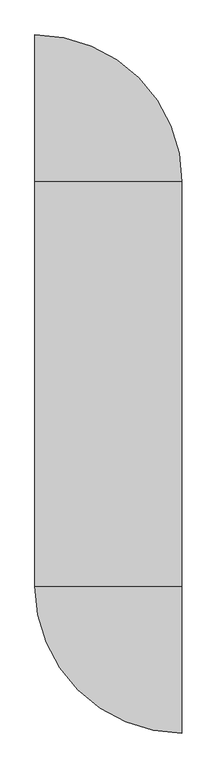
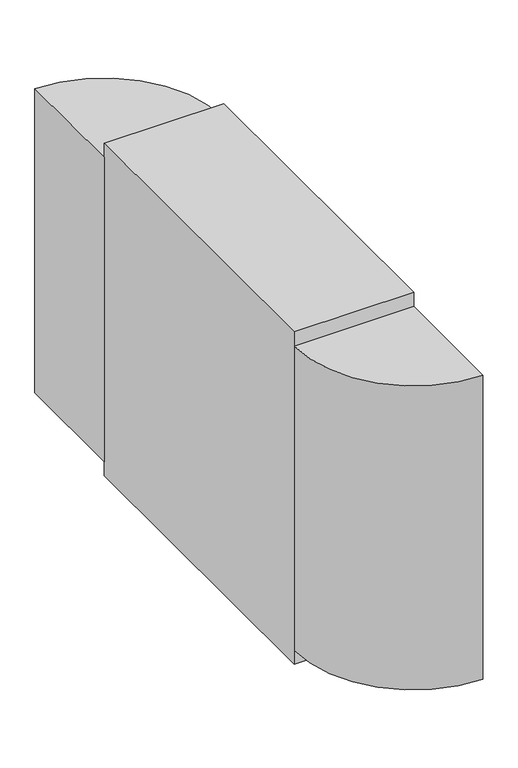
"""IFC4 building model written with IfcOpenShell, lengths in millimetres: proxy geometry, 30100_受変電設備_前後面保守形_コンデンサ盤 : 低圧コンデンサ盤."""

from ifc_helpers import new_model, si_unit, point, frame, frame_2d, origin, origin_with_axes, place, context, project, spatial, polyline, circle_curve, trimmed, segment, composite_curve, outline, extrude, source, transform, mapped, element, save


def electrical_equipment_1f931304(model_context):
    return source(origin(), model_context, "Body", "SweptSolid", [
        extrude(outline(composite_curve([segment(polyline([(-400.0, 1100.0), (-400.0, 1900.0)]), True, "CONTINUOUS"), segment(trimmed(circle_curve(frame_2d((-400.0, 1100.0)), 800.0), [point((-400.0, 1900.0))], [point((400.0, 1100.0))], False, "CARTESIAN"), True, "CONTINUOUS"), segment(polyline([(400.0, 1100.0), (-400.0, 1100.0)]), True, "CONTINUOUS")], self_intersect=False)), frame((0.0, 0.0, 100.0), z_axis=(0.0, 0.0, 1.0), x_axis=(1.0, 0.0, 0.0)), (0.0, 0.0, 1.0), 2150.0),
        extrude(outline(composite_curve([segment(polyline([(400.0, -1100.0), (400.0, -1900.0)]), True, "CONTINUOUS"), segment(trimmed(circle_curve(frame_2d((400.0, -1100.0)), 800.0), [point((400.0, -1900.0))], [point((-400.0, -1100.0))], False, "CARTESIAN"), True, "CONTINUOUS"), segment(polyline([(-400.0, -1100.0), (400.0, -1100.0)]), True, "CONTINUOUS")], self_intersect=False)), frame((0.0, 0.0, 100.0), z_axis=(0.0, 0.0, 1.0), x_axis=(1.0, 0.0, 0.0)), (0.0, 0.0, 1.0), 2150.0),
        extrude(outline(polyline([(400.0, -1100.0), (-400.0, -1100.0), (-400.0, 1100.0), (400.0, 1100.0), (400.0, -1100.0)])), origin_with_axes(), (0.0, 0.0, 1.0), 2350.0),
    ])


if __name__ == "__main__":
    model = new_model("IFC4")
    model_context = context("Model", 3, world=origin())
    ifc_project = project(units=[si_unit("LENGTHUNIT", "METRE", prefix="MILLI")], contexts=[model_context])
    site = spatial("IfcSite", under=ifc_project)
    building = spatial("IfcBuilding", under=site)
    placement = place(None, origin())
    electrical_equipment_shape = electrical_equipment_1f931304(model_context)
    element("IfcBuildingElementProxy", 1, Name="30100_受変電設備_前後面保守形_コンデンサ盤 : 低圧コンデンサ盤", ObjectType="30100_受変電設備_前後面保守形_コンデンサ盤 : 低圧コンデンサ盤", at=placement, inside=building, context=model_context, shape_type="MappedRepresentation", body=[
        mapped(electrical_equipment_shape, transform((0.0, 0.0, 0.0), x_axis=(1.0, 0.0, 0.0), y_axis=(0.0, 1.0, 0.0), z_axis=(0.0, 0.0, 1.0))),
    ])
    save(model, "model.ifc")
